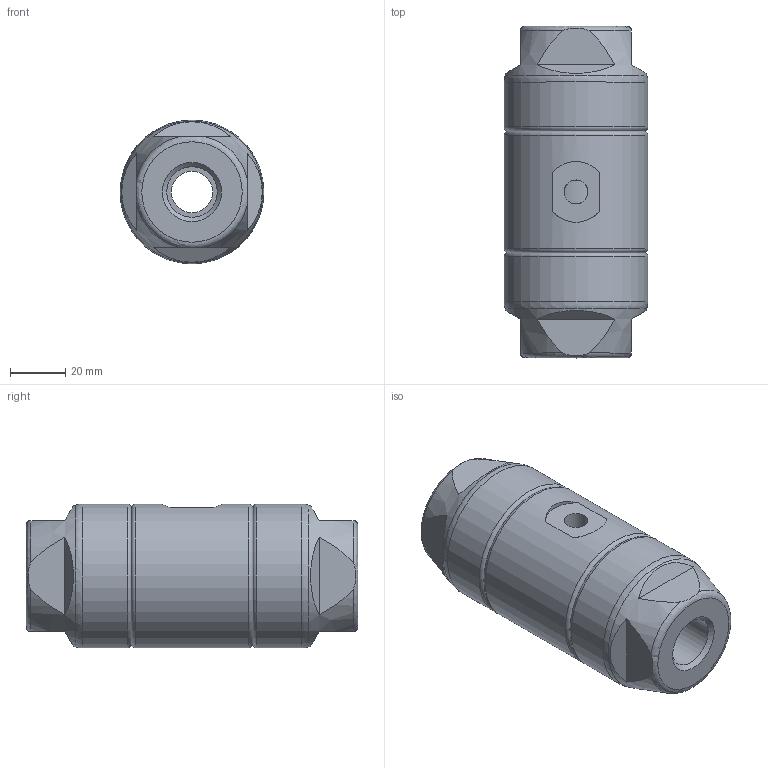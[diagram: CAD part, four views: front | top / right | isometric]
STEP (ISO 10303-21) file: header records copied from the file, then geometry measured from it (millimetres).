
FILE_DESCRIPTION(/* description */ (''),/* implementation_level */ '2;1');
FILE_NAME(/* name */ 'Serie10_QV15_assembly_VEREINFACHT.stp',/* time_stamp */ '2013-11-24T15:06:46+01:00',/* author */ (''),/* organization */ (''),/* preprocessor_version */ 'ST-DEVELOPER v11',/* originating_system */ 'SIEMENS PLM Software NX 7.5',/* authorisation */ '');
FILE_SCHEMA (('AUTOMOTIVE_DESIGN { 1 0 10303 214 1 1 1 1 }'));
Length unit declared in the file: millimetre
Products named in the file (1): memd1255rmru
Bounding box: 52 x 120 x 52 mm (x, y, z)
Volume: 206755.7 mm3; surface area: 28186.7 mm2
Topology: 1 solids, 1 shells, 43 faces, 108 edges, 70 vertices
Faces by surface type: plane 21, cylinder 10, torus 8, cone 4
Full cylindrical faces by diameter (mm): 8.611 x1, 15 x1, 18.258 x2, 52 x3
Entity records: 1286 total; most frequent: CARTESIAN_POINT 405, DIRECTION 176, ORIENTED_EDGE 152, AXIS2_PLACEMENT_3D 83, EDGE_CURVE 76, EDGE_LOOP 68, VERTEX_POINT 58, FACE_BOUND 49
